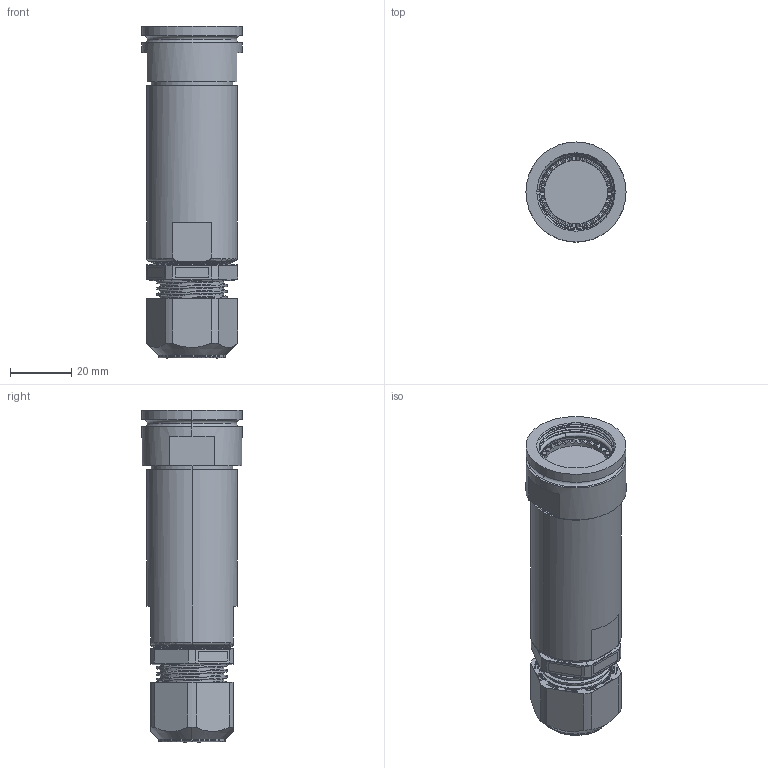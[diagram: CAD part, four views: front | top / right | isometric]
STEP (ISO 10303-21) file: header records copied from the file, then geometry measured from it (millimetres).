
FILE_DESCRIPTION (( 'STEP AP214' ), '1' );
FILE_NAME ('Q38SHELL-STX-17-XXXX-GL.STEP', '2025-09-09T21:07:23', ( '' ), ( '' ), 'SwSTEP 2.0', 'SolidWorks 2024', '' );
FILE_SCHEMA (( 'AUTOMOTIVE_DESIGN' ));
Length unit declared in the file: millimetre
Products named in the file (1): Q38SHELL-STX-17-XXXX-GL
Bounding box: 32.59 x 32.59 x 108.08 mm (x, y, z)
Surface area: 19796.1 mm2 (no closed solid volume)
Topology: 0 solids, 5 shells, 820 faces, 2067 edges, 1293 vertices
Faces by surface type: plane 238, cylinder 197, bspline 137, torus 99, cone 85, sphere 64
Entity records: 39222 total; most frequent: CARTESIAN_POINT 23269, ORIENTED_EDGE 4088, DIRECTION 2176, EDGE_CURVE 2067, VERTEX_POINT 1293, B_SPLINE_CURVE_WITH_KNOTS 1279, AXIS2_PLACEMENT_3D 957, EDGE_LOOP 868
